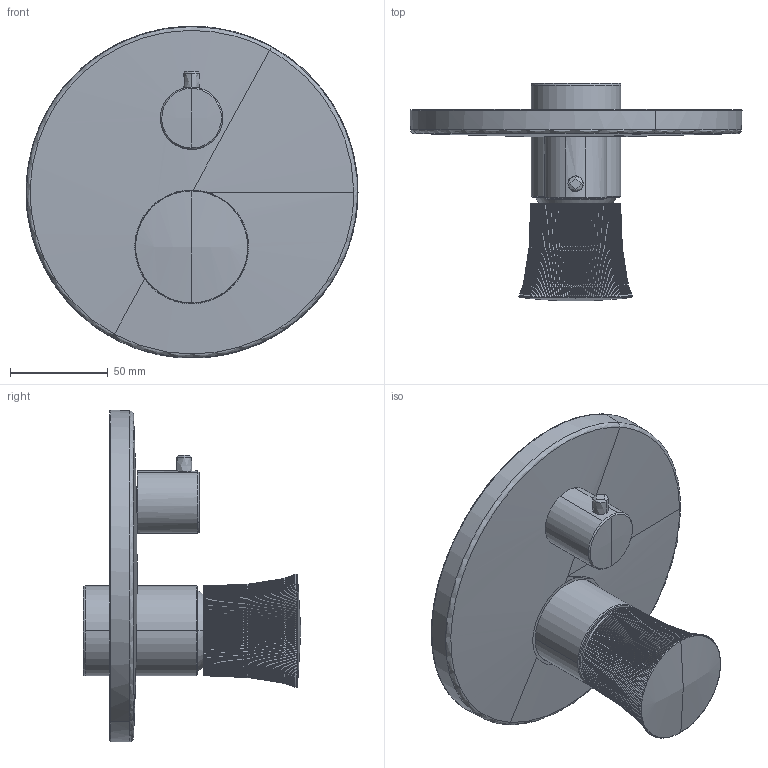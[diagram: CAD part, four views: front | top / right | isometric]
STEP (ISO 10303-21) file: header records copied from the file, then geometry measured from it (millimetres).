
FILE_DESCRIPTION(/* description */ (''),/* implementation_level */ '2;1');
FILE_NAME(/* name */ 'WT4210012010',/* time_stamp */ '2022-11-03T07:31:08+01:00',/* author */ (''),/* organization */ (''),/* preprocessor_version */ 'ST-DEVELOPER v15',/* originating_system */ '',/* authorisation */ '');
FILE_SCHEMA (('AUTOMOTIVE_DESIGN'));
Length unit declared in the file: millimetre
Products named in the file (1): Document
Bounding box: 169.96 x 111.46 x 169.8 mm (x, y, z)
Volume: 96594.5 mm3; surface area: 63234.3 mm2
Topology: 1 solids, 7 shells, 1320 faces, 3217 edges, 1903 vertices
Faces by surface type: bspline 1309, plane 11
Entity records: 67245 total; most frequent: CARTESIAN_POINT 49310, ORIENTED_EDGE 6382, EDGE_CURVE 3210, B_SPLINE_CURVE_WITH_KNOTS 2385, VERTEX_POINT 1903, EDGE_LOOP 1327, ADVANCED_FACE 1320, FACE_OUTER_BOUND 1320
